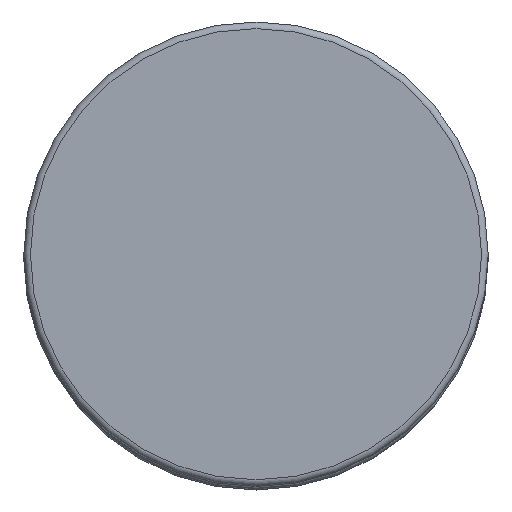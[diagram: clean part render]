
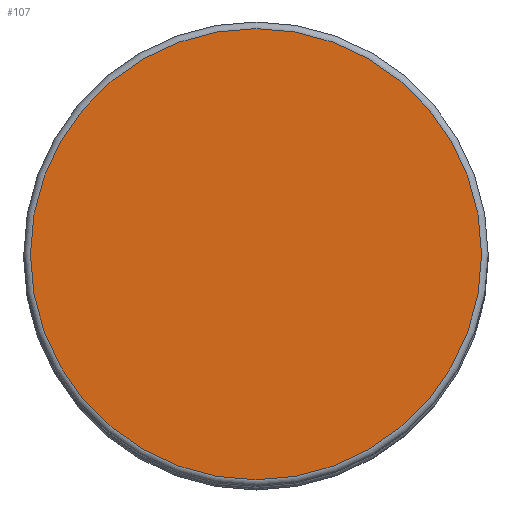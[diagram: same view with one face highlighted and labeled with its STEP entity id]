
A CAD part, top view. The second image highlights one B-rep face of the part: STEP entity #107.
In plain terms, the highlighted planar face has unit normal (0, 0, 1).
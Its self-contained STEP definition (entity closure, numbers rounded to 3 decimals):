
#107=ADVANCED_FACE('',(#1331),#1333,.T.);
#1331=FACE_BOUND('',#1332,.T.);
#1332=EDGE_LOOP('',(#2773));
#1333=PLANE('',#1334);
#1334=AXIS2_PLACEMENT_3D('',#1335,#1336,#1337);
#1335=CARTESIAN_POINT('',(0.,0.,295.));
#1336=DIRECTION('',(0.,0.,1.));
#1337=DIRECTION('',(-1.,0.,0.));
#2773=ORIENTED_EDGE('',*,*,#3454,.F.);
#3454=EDGE_CURVE('',#3807,#3807,#3808,.T.);
#3807=VERTEX_POINT('',#4591);
#3808=CIRCLE('',#4592,33.975);
#4591=CARTESIAN_POINT('',(-33.975,0.,295.));
#4592=AXIS2_PLACEMENT_3D('',#4593,#4594,#4595);
#4593=CARTESIAN_POINT('',(0.,0.,295.));
#4594=DIRECTION('',(0.,0.,-1.));
#4595=DIRECTION('',(-1.,0.,0.));
